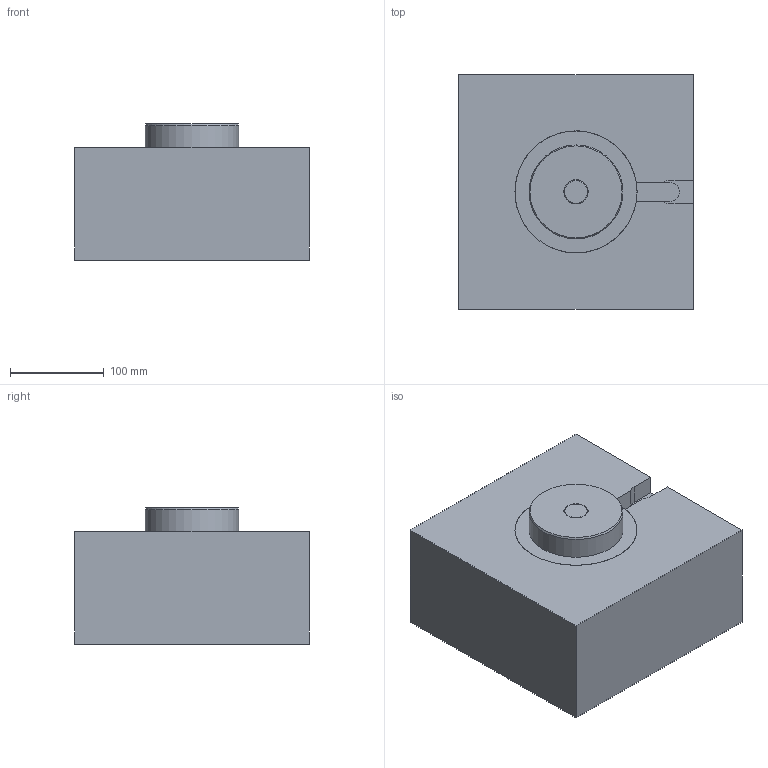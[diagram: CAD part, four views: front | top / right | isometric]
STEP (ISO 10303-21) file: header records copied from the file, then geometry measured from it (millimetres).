
FILE_DESCRIPTION( ( 'STEP AP214' ), '1' );
FILE_NAME( 'S:/PROIECTE_YUDO_2009_dupa_1.07.2009/PROIECTE YUDO 3D 01.07.2009/BLS/YUEU09-BLS25CC090_1.5/YUEU09-BLS25CC090.step', '2009-08-31T11:38:17', ( ' ' ), ( ' ' ), 'XStep 1.0', ' ', ' ' );
FILE_SCHEMA( ( 'automotive_design' ) );
Length unit declared in the file: millimetre
Products named in the file (4): 1; 2; 3; 4
Bounding box: 250 x 250 x 145 mm (x, y, z)
Volume: 7560870.9 mm3; surface area: 337782.1 mm2
Topology: 4 solids, 4 shells, 111 faces, 260 edges, 168 vertices
Faces by surface type: plane 60, cylinder 35, cone 12, bspline 2, torus 2
Full cylindrical faces by diameter (mm): 20 x1, 22.9 x1, 24.991 x1, 25 x4, 33.547 x1, 37 x2, 44.998 x1, 45 x2, 61.8 x1, 62.8 x2, 100 x1, 130 x1
Entity records: 3997 total; most frequent: CARTESIAN_POINT 641, DIRECTION 510, ORIENTED_EDGE 442, EDGE_CURVE 221, AXIS2_PLACEMENT_3D 200, VERTEX_POINT 163, EDGE_LOOP 158, FACE_OUTER_BOUND 133
